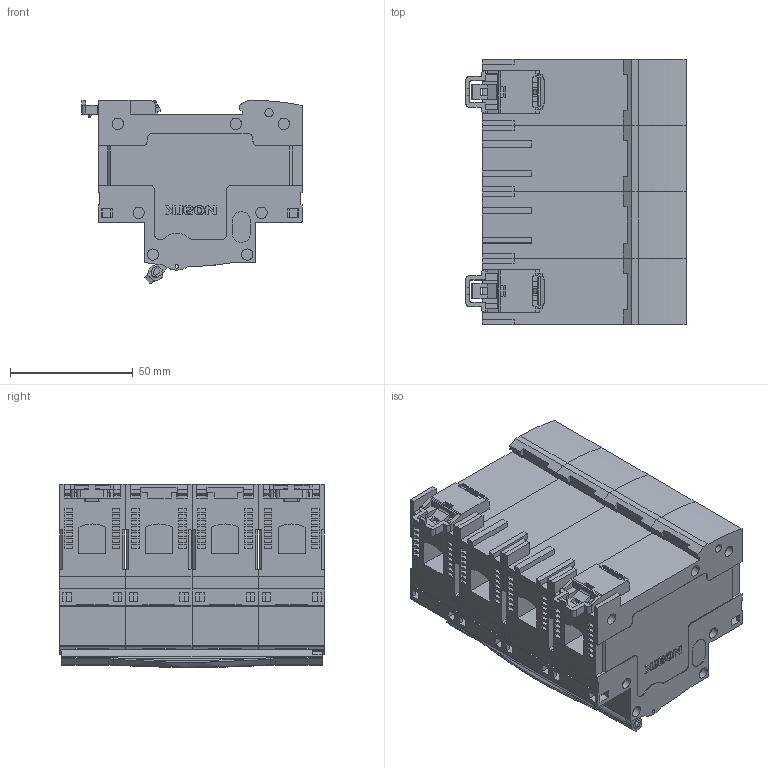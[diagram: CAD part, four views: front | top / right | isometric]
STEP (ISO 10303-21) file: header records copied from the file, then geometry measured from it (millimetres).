
FILE_DESCRIPTION((''),'2;1');
FILE_NAME('4P_ASM','2024-08-29T10:05:27',('zxueq'),(''),'CREO PARAMETRIC BY PTC INC, 2020044','CREO PARAMETRIC BY PTC INC, 2020044','');
FILE_SCHEMA(('CONFIG_CONTROL_DESIGN','SHAPE_APPEARANCE_LAYERS_GROUPS'));
Length unit declared in the file: millimetre
Products named in the file (6): BENTI; 8259B0101104; 8100I0101003; 8270I0101002; 5270I0126001_ASM; 4P_ASM
Assembly tree (9 placements, depth 3):
  4P_ASM
    BENTI  x4
    8259B0101104
    5270I0126001_ASM  x2
      8100I0101003
      8270I0101002
Bounding box: 89.6 x 108 x 74.45 mm (x, y, z)
Volume: 469756.9 mm3; surface area: 94258.4 mm2
Topology: 9 solids, 9 shells, 2562 faces, 6962 edges, 4620 vertices
Faces by surface type: plane 1775, cylinder 495, extrusion 266, cone 16, bspline 10
Entity records: 30335 total; most frequent: CARTESIAN_POINT 6357, ORIENTED_EDGE 4520, DIRECTION 4017, EDGE_CURVE 2260, VECTOR 1789, LINE 1718, VERTEX_POINT 1492, AXIS2_PLACEMENT_3D 1114
